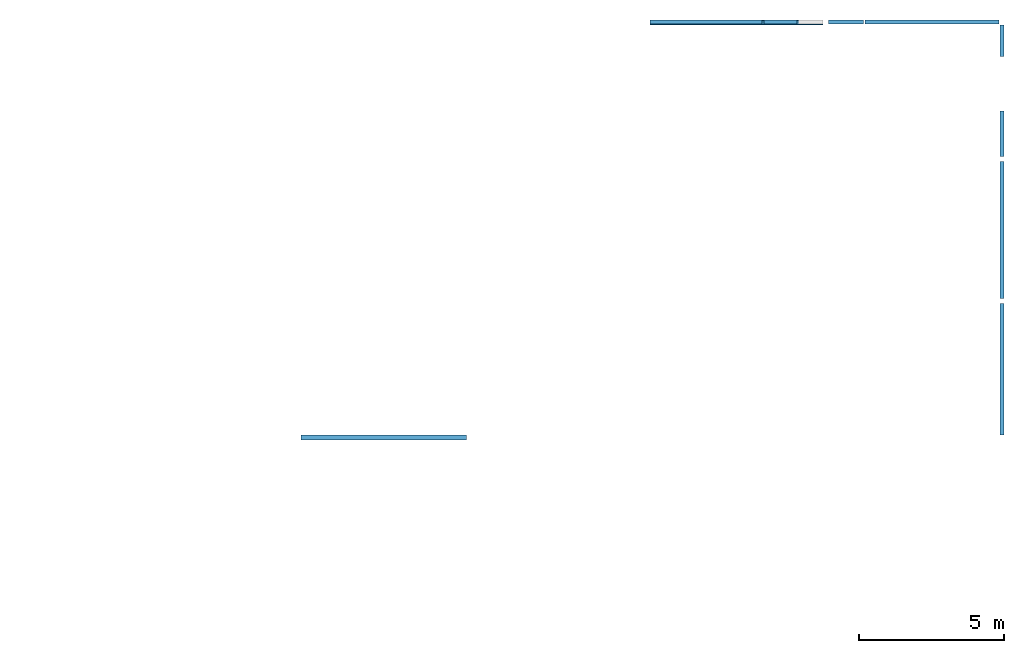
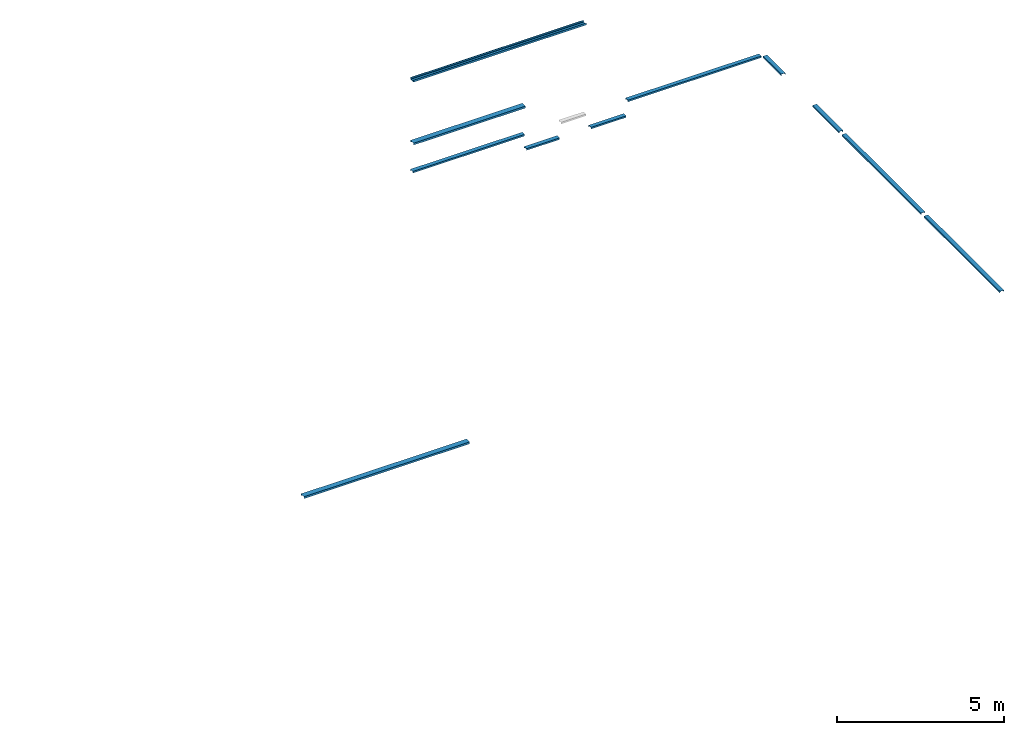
# One storey, part 2 of 3: 12 beams.
"""IFC2X3 building model written with IfcOpenShell, lengths in millimetres."""

from ifc_helpers import new_model, entity, si_unit, converted_unit, derived_unit, direction, frame, frame_2d, origin, place, context, subcontext, project, spatial, polyline, circle_curve, parameter, trimmed, segment, composite_curve, outline, extrude, material, type_object, element, save


model = new_model("IFC2X3")

# Units and contexts
model_context = context("Model", 3, precision=0.01, world=origin(), true_north=direction((6.12303176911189e-17, 1.0)))
body_context = subcontext(model_context, "Body", "Model", "MODEL_VIEW")
ifc_project = project(units=[si_unit("LENGTHUNIT", "METRE", prefix="MILLI"), si_unit("AREAUNIT", "SQUARE_METRE"), si_unit("VOLUMEUNIT", "CUBIC_METRE"), converted_unit("PLANEANGLEUNIT", "DEGREE", entity("IfcRatioMeasure", 0.0174532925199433), si_unit("PLANEANGLEUNIT", "RADIAN"), dimensions=[0, 0, 0, 0, 0, 0, 0]), si_unit("MASSUNIT", "GRAM", prefix="KILO"), derived_unit("MASSDENSITYUNIT", [(si_unit("MASSUNIT", "GRAM", prefix="KILO"), 1), (si_unit("LENGTHUNIT", "METRE"), -3)]), derived_unit("MOMENTOFINERTIAUNIT", [(si_unit("LENGTHUNIT", "METRE"), 4)]), si_unit("TIMEUNIT", "SECOND"), si_unit("FREQUENCYUNIT", "HERTZ"), si_unit("THERMODYNAMICTEMPERATUREUNIT", "DEGREE_CELSIUS"), derived_unit("THERMALTRANSMITTANCEUNIT", [(si_unit("MASSUNIT", "GRAM", prefix="KILO"), 1), (si_unit("THERMODYNAMICTEMPERATUREUNIT", "KELVIN"), -1), (si_unit("TIMEUNIT", "SECOND"), -3)]), derived_unit("VOLUMETRICFLOWRATEUNIT", [(si_unit("LENGTHUNIT", "METRE"), 3), (si_unit("TIMEUNIT", "SECOND"), -1)]), si_unit("ELECTRICCURRENTUNIT", "AMPERE"), si_unit("ELECTRICVOLTAGEUNIT", "VOLT"), si_unit("POWERUNIT", "WATT"), si_unit("FORCEUNIT", "NEWTON", prefix="KILO"), si_unit("ILLUMINANCEUNIT", "LUX"), si_unit("LUMINOUSFLUXUNIT", "LUMEN"), si_unit("LUMINOUSINTENSITYUNIT", "CANDELA"), derived_unit("USERDEFINED", [(si_unit("MASSUNIT", "GRAM", prefix="KILO"), -1), (si_unit("LENGTHUNIT", "METRE"), -2), (si_unit("TIMEUNIT", "SECOND"), 3), (si_unit("LUMINOUSFLUXUNIT", "LUMEN"), 1)]), derived_unit("LINEARVELOCITYUNIT", [(si_unit("LENGTHUNIT", "METRE"), 1), (si_unit("TIMEUNIT", "SECOND"), -1)]), si_unit("PRESSUREUNIT", "PASCAL"), derived_unit("USERDEFINED", [(si_unit("LENGTHUNIT", "METRE"), -2), (si_unit("MASSUNIT", "GRAM", prefix="KILO"), 1), (si_unit("TIMEUNIT", "SECOND"), -2)]), derived_unit("LINEARFORCEUNIT", [(si_unit("MASSUNIT", "GRAM", prefix="KILO"), 1), (si_unit("LENGTHUNIT", "METRE"), 1), (si_unit("TIMEUNIT", "SECOND"), -2), (si_unit("LENGTHUNIT", "METRE"), -1)]), derived_unit("PLANARFORCEUNIT", [(si_unit("MASSUNIT", "GRAM", prefix="KILO"), 1), (si_unit("LENGTHUNIT", "METRE"), 1), (si_unit("TIMEUNIT", "SECOND"), -2), (si_unit("LENGTHUNIT", "METRE"), -2)])], contexts=[model_context])

# Site, building, storey
site_placement = place(None, origin())
site = spatial("IfcSite", under=ifc_project, at=site_placement, Name="Default", CompositionType="ELEMENT")
building_placement = place(site_placement, origin())
building = spatial("IfcBuilding", under=site, at=building_placement, CompositionType="ELEMENT")
storey_placement = place(building_placement, origin())
storey = spatial("IfcBuildingStorey", under=building, at=storey_placement, Name="00 begane grond", CompositionType="ELEMENT", Elevation=-2.70716782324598e-13)

# Beams
ifc_material = material(Name="00_Staal_generiek")
beam_type_1 = type_object("IfcBeamType", Name="BERSnl_28_SF_LIB_balk unp_gen_ISR:balk_gen_UNP140", PredefinedType="BEAM")
beam_1_placement = place(storey_placement, frame((59293.4270571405, 34424.7966282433, 1989.49999999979), z_axis=(0.0, 0.0, 1.0), x_axis=(0.0, -1.0, 0.0)))
element("IfcBeam", 1, at=beam_1_placement, inside=storey, type_object=beam_type_1, material=ifc_material, Name="BERSnl_28_SF_LIB_balk unp_gen_ISR:balk_gen_UNP140", ObjectType="BERSnl_28_SF_LIB_balk unp_gen_ISR:balk_gen_UNP140", context=body_context, shape_type="SweptSolid", body=[
    extrude(outline(composite_curve([segment(polyline([(-33.1001241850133, -70.0), (26.8998758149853, -70.0)]), True, "CONTINUOUS"), segment(polyline([(26.8998758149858, -70.0), (26.8998758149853, -66.7383127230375)]), True, "CONTINUOUS"), segment(trimmed(circle_curve(frame_2d((21.8998758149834, -66.7383127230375), x_axis=(1.0, 0.0)), 5.00000000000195), [parameter(0.0)], [parameter(85.4199999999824)], True, "PARAMETER"), True, "CONTINUOUS"), segment(polyline([(22.2991307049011, -61.754278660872), (-16.8986339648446, -58.614272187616)]), True, "CONTINUOUS"), segment(trimmed(circle_curve(frame_2d((-16.1001241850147, -48.6462040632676), x_axis=(-0.0798509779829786, -0.996806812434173)), 9.99999999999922), [parameter(274.579999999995)], [parameter(0.0)], True, "PARAMETER"), False, "CONTINUOUS"), segment(polyline([(-26.1001241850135, -48.6462040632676), (-26.1001241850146, 48.6462040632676)]), True, "CONTINUOUS"), segment(trimmed(circle_curve(frame_2d((-16.1001241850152, 48.6462040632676), x_axis=(-1.0, 0.0)), 9.99999999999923), [parameter(274.579999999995)], [parameter(0.0)], True, "PARAMETER"), False, "CONTINUOUS"), segment(polyline([(-16.8986339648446, 58.6142721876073), (22.2991307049, 61.7542786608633)]), True, "CONTINUOUS"), segment(trimmed(circle_curve(frame_2d((21.8998758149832, 66.7383127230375), x_axis=(0.0798509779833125, -0.996806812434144)), 5.00000000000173), [parameter(0.0)], [parameter(85.4199999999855)], True, "PARAMETER"), True, "CONTINUOUS"), segment(polyline([(26.8998758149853, 66.7383127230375), (26.8998758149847, 70.0)]), True, "CONTINUOUS"), segment(polyline([(26.8998758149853, 70.0), (-33.1001241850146, 70.0)]), True, "CONTINUOUS"), segment(polyline([(-33.1001241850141, 70.0), (-33.1001241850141, -70.0)]), True, "CONTINUOUS")], self_intersect=False)), frame((-900.5, 70.0, -15.6001241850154), z_axis=(1.0, 0.0, 0.0), x_axis=(0.0, 0.0, -1.0)), (0.0, 0.0, 1.0), 1083.00000000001),
])
beam_2_placement = place(storey_placement, frame((59293.4270571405, 31386.6485141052, 1989.49999999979), z_axis=(0.0, 0.0, 1.0), x_axis=(0.0, -1.0, 0.0)))
element("IfcBeam", 2, at=beam_2_placement, inside=storey, type_object=beam_type_1, material=ifc_material, Name="BERSnl_28_SF_LIB_balk unp_gen_ISR:balk_gen_UNP140", ObjectType="BERSnl_28_SF_LIB_balk unp_gen_ISR:balk_gen_UNP140", context=body_context, shape_type="SweptSolid", body=[
    extrude(outline(composite_curve([segment(polyline([(-33.1001241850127, -70.0), (26.8998758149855, -70.0)]), True, "CONTINUOUS"), segment(polyline([(26.8998758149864, -70.0), (26.8998758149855, -66.7383127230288)]), True, "CONTINUOUS"), segment(trimmed(circle_curve(frame_2d((21.8998758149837, -66.7383127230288), x_axis=(1.0, 0.0)), 5.00000000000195), [parameter(0.0)], [parameter(85.4199999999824)], True, "PARAMETER"), True, "CONTINUOUS"), segment(polyline([(22.2991307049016, -61.7542786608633), (-16.8986339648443, -58.6142721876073)]), True, "CONTINUOUS"), segment(trimmed(circle_curve(frame_2d((-16.1001241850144, -48.6462040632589), x_axis=(-0.0798509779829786, -0.996806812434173)), 9.99999999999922), [parameter(274.579999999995)], [parameter(0.0)], True, "PARAMETER"), False, "CONTINUOUS"), segment(polyline([(-26.100124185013, -48.6462040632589), (-26.1001241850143, 48.6462040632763)]), True, "CONTINUOUS"), segment(trimmed(circle_curve(frame_2d((-16.100124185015, 48.6462040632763), x_axis=(-1.0, 0.0)), 9.99999999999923), [parameter(274.579999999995)], [parameter(0.0)], True, "PARAMETER"), False, "CONTINUOUS"), segment(polyline([(-16.8986339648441, 58.614272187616), (22.2991307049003, 61.754278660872)]), True, "CONTINUOUS"), segment(trimmed(circle_curve(frame_2d((21.8998758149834, 66.7383127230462), x_axis=(0.0798509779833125, -0.996806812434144)), 5.00000000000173), [parameter(0.0)], [parameter(85.4199999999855)], True, "PARAMETER"), True, "CONTINUOUS"), segment(polyline([(26.8998758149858, 66.7383127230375), (26.899875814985, 70.0)]), True, "CONTINUOUS"), segment(polyline([(26.8998758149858, 70.0), (-33.1001241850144, 70.0)]), True, "CONTINUOUS"), segment(polyline([(-33.1001241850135, 70.0), (-33.1001241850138, -70.0)]), True, "CONTINUOUS")], self_intersect=False)), frame((-975.648114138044, 70.0, -15.6001241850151), z_axis=(1.0, 0.0, 0.0), x_axis=(0.0, 0.0, -1.0)), (0.0, 0.0, 1.0), 1576.00000000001),
])
beam_3_placement = place(storey_placement, frame((59293.4270571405, 30005.9447423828, 1989.49999999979), z_axis=(0.0, 0.0, 1.0), x_axis=(0.0, 1.0, 0.0)))
element("IfcBeam", 3, at=beam_3_placement, inside=storey, type_object=beam_type_1, material=ifc_material, Name="BERSnl_28_SF_LIB_balk unp_gen_ISR:balk_gen_UNP140", ObjectType="BERSnl_28_SF_LIB_balk unp_gen_ISR:balk_gen_UNP140", context=body_context, shape_type="SweptSolid", body=[
    extrude(outline(composite_curve([segment(polyline([(-33.1001241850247, -70.0), (26.8998758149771, -70.0)]), True, "CONTINUOUS"), segment(polyline([(26.8998758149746, -70.0), (26.8998758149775, -66.7383127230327)]), True, "CONTINUOUS"), segment(trimmed(circle_curve(frame_2d((21.8998758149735, -66.7383127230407), x_axis=(1.0, 0.0)), 5.00000000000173), [parameter(0.0)], [parameter(85.4199999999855)], True, "PARAMETER"), True, "CONTINUOUS"), segment(polyline([(22.2991307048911, -61.7542786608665), (-16.8986339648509, -58.6142721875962)]), True, "CONTINUOUS"), segment(trimmed(circle_curve(frame_2d((-16.1001241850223, -48.6462040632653), x_axis=(-0.0798509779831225, -0.996806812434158)), 9.99999999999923), [parameter(274.579999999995)], [parameter(0.0)], True, "PARAMETER"), False, "CONTINUOUS"), segment(polyline([(-26.1001241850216, -48.6462040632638), (-26.1001241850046, 48.64620406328)]), True, "CONTINUOUS"), segment(trimmed(circle_curve(frame_2d((-16.1001241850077, 48.6462040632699), x_axis=(-1.0, 0.0)), 9.99999999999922), [parameter(274.579999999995)], [parameter(0.0)], True, "PARAMETER"), False, "CONTINUOUS"), segment(polyline([(-16.8986339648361, 58.6142721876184), (22.2991307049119, 61.7542786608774)]), True, "CONTINUOUS"), segment(trimmed(circle_curve(frame_2d((21.8998758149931, 66.7383127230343), x_axis=(0.0798509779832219, -0.99680681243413)), 5.00000000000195), [parameter(0.0)], [parameter(85.4199999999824)], True, "PARAMETER"), True, "CONTINUOUS"), segment(polyline([(26.8998758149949, 66.7383127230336), (26.8998758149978, 70.0)]), True, "CONTINUOUS"), segment(polyline([(26.8998758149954, 70.0), (-33.1001241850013, 70.0)]), True, "CONTINUOUS"), segment(polyline([(-33.100124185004, 70.0), (-33.1001241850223, -70.0)]), True, "CONTINUOUS")], self_intersect=False)), frame((-4119.64811413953, -70.0, -15.6001241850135), z_axis=(1.0, 0.0, 0.0), x_axis=(0.0, 0.0, -1.0)), (0.0, 0.0, 1.0), 4720.00000000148),
])
beam_4_placement = place(storey_placement, frame((59293.4270571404, 21586.6485141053, 1989.49999999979), z_axis=(0.0, 0.0, 1.0), x_axis=(0.0, -1.0, 0.0)))
element("IfcBeam", 4, at=beam_4_placement, inside=storey, type_object=beam_type_1, material=ifc_material, Name="BERSnl_28_SF_LIB_balk unp_gen_ISR:balk_gen_UNP140", ObjectType="BERSnl_28_SF_LIB_balk unp_gen_ISR:balk_gen_UNP140", context=body_context, shape_type="SweptSolid", body=[
    extrude(outline(composite_curve([segment(polyline([(-33.1001241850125, -70.0), (26.8998758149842, -70.0)]), True, "CONTINUOUS"), segment(polyline([(26.8998758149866, -70.0), (26.8998758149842, -66.7383127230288)]), True, "CONTINUOUS"), segment(trimmed(circle_curve(frame_2d((21.8998758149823, -66.7383127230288), x_axis=(1.0, 0.0)), 5.00000000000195), [parameter(0.0)], [parameter(85.4199999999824)], True, "PARAMETER"), True, "CONTINUOUS"), segment(polyline([(22.2991307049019, -61.7542786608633), (-16.8986339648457, -58.6142721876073)]), True, "CONTINUOUS"), segment(trimmed(circle_curve(frame_2d((-16.1001241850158, -48.6462040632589), x_axis=(-0.0798509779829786, -0.996806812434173)), 9.99999999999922), [parameter(274.579999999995)], [parameter(0.0)], True, "PARAMETER"), False, "CONTINUOUS"), segment(polyline([(-26.1001241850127, -48.6462040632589), (-26.1001241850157, 48.6462040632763)]), True, "CONTINUOUS"), segment(trimmed(circle_curve(frame_2d((-16.1001241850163, 48.6462040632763), x_axis=(-1.0, 0.0)), 9.99999999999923), [parameter(274.579999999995)], [parameter(0.0)], True, "PARAMETER"), False, "CONTINUOUS"), segment(polyline([(-16.8986339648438, 58.614272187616), (22.2991307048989, 61.754278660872)]), True, "CONTINUOUS"), segment(trimmed(circle_curve(frame_2d((21.8998758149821, 66.7383127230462), x_axis=(0.0798509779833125, -0.996806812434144)), 5.00000000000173), [parameter(0.0)], [parameter(85.4199999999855)], True, "PARAMETER"), True, "CONTINUOUS"), segment(polyline([(26.8998758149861, 66.7383127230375), (26.8998758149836, 70.0)]), True, "CONTINUOUS"), segment(polyline([(26.8998758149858, 70.0), (-33.1001241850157, 70.0)]), True, "CONTINUOUS"), segment(polyline([(-33.1001241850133, 70.0), (-33.1001241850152, -70.0)]), True, "CONTINUOUS")], self_intersect=False)), frame((-4119.64811413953, 70.0, -15.6001241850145), z_axis=(1.0, 0.0, 0.0), x_axis=(0.0, 0.0, -1.0)), (0.0, 0.0, 1.0), 4539.00000000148),
])
beam_5_placement = place(storey_placement, frame((57643.6770571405, 35356.2966282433, 1989.4999999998)))
element("IfcBeam", 5, at=beam_5_placement, inside=storey, type_object=beam_type_1, material=ifc_material, Name="BERSnl_28_SF_LIB_balk unp_gen_ISR:balk_gen_UNP140", ObjectType="BERSnl_28_SF_LIB_balk unp_gen_ISR:balk_gen_UNP140", context=body_context, shape_type="SweptSolid", body=[
    extrude(outline(composite_curve([segment(polyline([(-33.1001241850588, -70.0), (26.8998758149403, -70.0)]), True, "CONTINUOUS"), segment(polyline([(26.8998758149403, -70.0), (26.8998758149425, -66.7383127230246)]), True, "CONTINUOUS"), segment(trimmed(circle_curve(frame_2d((21.8998758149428, -66.7383127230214), x_axis=(1.0, 0.0)), 4.99999999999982), [parameter(0.0)], [parameter(85.4200000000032)], True, "PARAMETER"), True, "CONTINUOUS"), segment(polyline([(22.299130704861, -61.7542786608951), (-16.8986339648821, -58.6142721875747)]), True, "CONTINUOUS"), segment(trimmed(circle_curve(frame_2d((-16.1001241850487, -48.6462040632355), x_axis=(-0.079850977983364, -0.99680681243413)), 9.99999999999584), [parameter(274.579999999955)], [parameter(0.0)], True, "PARAMETER"), False, "CONTINUOUS"), segment(polyline([(-26.1001241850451, -48.6462040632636), (-26.1001241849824, 48.6462040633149)]), True, "CONTINUOUS"), segment(trimmed(circle_curve(frame_2d((-16.1001241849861, 48.6462040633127), x_axis=(-1.0, 0.0)), 9.99999999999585), [parameter(274.579999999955)], [parameter(0.0)], True, "PARAMETER"), False, "CONTINUOUS"), segment(polyline([(-16.8986339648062, 58.6142721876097), (22.2991307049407, 61.7542786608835)]), True, "CONTINUOUS"), segment(trimmed(circle_curve(frame_2d((21.8998758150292, 66.7383127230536), x_axis=(0.0798509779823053, -0.996806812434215)), 4.9999999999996), [parameter(0.0)], [parameter(85.4200000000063)], True, "PARAMETER"), True, "CONTINUOUS"), segment(polyline([(26.8998758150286, 66.738312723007), (26.8998758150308, 70.0)]), True, "CONTINUOUS"), segment(polyline([(26.8998758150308, 70.0), (-33.1001241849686, 70.0)]), True, "CONTINUOUS"), segment(polyline([(-33.1001241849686, 70.0), (-33.100124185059, -70.0)]), True, "CONTINUOUS")], self_intersect=False)), frame((-3000.24999999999, 70.0, -15.6001241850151), z_axis=(1.0, 0.0, 0.0), x_axis=(0.0, 0.0, -1.0)), (0.0, 0.0, 1.0), 4610.00000000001),
])
beam_6_placement = place(storey_placement, frame((50363.6770571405, 35356.2966282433, 1989.49999999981)))
element("IfcBeam", 6, at=beam_6_placement, inside=storey, type_object=beam_type_1, material=ifc_material, Name="BERSnl_28_SF_LIB_balk unp_gen_ISR:balk_gen_UNP140", ObjectType="BERSnl_28_SF_LIB_balk unp_gen_ISR:balk_gen_UNP140", context=body_context, shape_type="SweptSolid", body=[
    extrude(outline(composite_curve([segment(polyline([(-33.1001241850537, -70.0), (26.8998758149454, -70.0)]), True, "CONTINUOUS"), segment(polyline([(26.8998758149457, -70.0), (26.8998758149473, -66.7383127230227)]), True, "CONTINUOUS"), segment(trimmed(circle_curve(frame_2d((21.8998758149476, -66.7383127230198), x_axis=(1.0, 0.0)), 4.99999999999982), [parameter(0.0)], [parameter(85.4200000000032)], True, "PARAMETER"), True, "CONTINUOUS"), segment(polyline([(22.2991307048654, -61.7542786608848), (-16.8986339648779, -58.6142721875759)]), True, "CONTINUOUS"), segment(trimmed(circle_curve(frame_2d((-16.1001241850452, -48.6462040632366), x_axis=(-0.079850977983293, -0.996806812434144)), 9.99999999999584), [parameter(274.579999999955)], [parameter(0.0)], True, "PARAMETER"), False, "CONTINUOUS"), segment(polyline([(-26.1001241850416, -48.6462040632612), (-26.100124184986, 48.646204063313)]), True, "CONTINUOUS"), segment(trimmed(circle_curve(frame_2d((-16.1001241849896, 48.6462040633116), x_axis=(-1.0, 0.0)), 9.99999999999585), [parameter(274.579999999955)], [parameter(0.0)], True, "PARAMETER"), False, "CONTINUOUS"), segment(polyline([(-16.8986339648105, 58.6142721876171), (22.2991307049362, 61.7542786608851)]), True, "CONTINUOUS"), segment(trimmed(circle_curve(frame_2d((21.8998758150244, 66.7383127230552), x_axis=(0.0798509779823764, -0.996806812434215)), 4.9999999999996), [parameter(0.0)], [parameter(85.4200000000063)], True, "PARAMETER"), True, "CONTINUOUS"), segment(polyline([(26.8998758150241, 66.7383127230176), (26.8998758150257, 70.0)]), True, "CONTINUOUS"), segment(polyline([(26.8998758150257, 70.0), (-33.1001241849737, 70.0)]), True, "CONTINUOUS"), segment(polyline([(-33.1001241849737, 70.0), (-33.100124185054, -70.0)]), True, "CONTINUOUS")], self_intersect=False)), frame((-3140.24999999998, 70.0, -15.6001241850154), z_axis=(1.0, 0.0, 0.0), x_axis=(0.0, 0.0, -1.0)), (0.0, 0.0, 1.0), 3859.83415010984),
])
beam_7_placement = place(storey_placement, frame((56428.6770571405, 35356.2966282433, 1442.49999999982)))
element("IfcBeam", 7, at=beam_7_placement, inside=storey, type_object=beam_type_1, material=ifc_material, Name="BERSnl_28_SF_LIB_balk unp_gen_ISR:balk_gen_UNP140", ObjectType="BERSnl_28_SF_LIB_balk unp_gen_ISR:balk_gen_UNP140", context=body_context, shape_type="SweptSolid", body=[
    extrude(outline(composite_curve([segment(polyline([(-33.1001241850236, -70.0), (26.8998758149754, -70.0)]), True, "CONTINUOUS"), segment(polyline([(26.8998758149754, -70.0), (26.8998758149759, -66.7383127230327)]), True, "CONTINUOUS"), segment(trimmed(circle_curve(frame_2d((21.8998758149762, -66.738312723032), x_axis=(1.0, 0.0)), 4.99999999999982), [parameter(0.0)], [parameter(85.4200000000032)], True, "PARAMETER"), True, "CONTINUOUS"), segment(polyline([(22.2991307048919, -61.7542786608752), (-16.8986339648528, -58.6142721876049)]), True, "CONTINUOUS"), segment(trimmed(circle_curve(frame_2d((-16.1001241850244, -48.6462040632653), x_axis=(-0.0798509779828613, -0.996806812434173)), 9.99999999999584), [parameter(274.579999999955)], [parameter(0.0)], True, "PARAMETER"), False, "CONTINUOUS"), segment(polyline([(-26.1001241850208, -48.6462040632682), (-26.1001241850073, 48.64620406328)]), True, "CONTINUOUS"), segment(trimmed(circle_curve(frame_2d((-16.1001241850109, 48.6462040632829), x_axis=(-1.0, 0.0)), 9.99999999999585), [parameter(274.579999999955)], [parameter(0.0)], True, "PARAMETER"), False, "CONTINUOUS"), segment(polyline([(-16.8986339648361, 58.6142721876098), (22.2991307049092, 61.7542786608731)]), True, "CONTINUOUS"), segment(trimmed(circle_curve(frame_2d((21.8998758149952, 66.738312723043), x_axis=(0.079850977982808, -0.996806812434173)), 4.9999999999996), [parameter(0.0)], [parameter(85.4200000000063)], True, "PARAMETER"), True, "CONTINUOUS"), segment(polyline([(26.8998758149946, 66.7383127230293), (26.8998758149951, 70.0)]), True, "CONTINUOUS"), segment(polyline([(26.8998758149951, 70.0), (-33.1001241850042, 70.0)]), True, "CONTINUOUS"), segment(polyline([(-33.1001241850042, 70.0), (-33.1001241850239, -70.0)]), True, "CONTINUOUS")], self_intersect=False)), frame((-3055.24999999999, 70.0, -15.6001241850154), z_axis=(1.0, 0.0, 0.0), x_axis=(0.0, 0.0, -1.0)), (0.0, 0.0, 1.0), 1210.0),
])
beam_8_placement = place(storey_placement, frame((54138.6770571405, 35356.2966282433, 1442.49999999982)))
element("IfcBeam", 8, at=beam_8_placement, inside=storey, type_object=beam_type_1, material=ifc_material, Name="BERSnl_28_SF_LIB_balk unp_gen_ISR:balk_gen_UNP140", ObjectType="BERSnl_28_SF_LIB_balk unp_gen_ISR:balk_gen_UNP140", context=body_context, shape_type="SweptSolid", body=[
    extrude(outline(composite_curve([segment(polyline([(-33.1001241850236, -70.0), (26.8998758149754, -70.0)]), True, "CONTINUOUS"), segment(polyline([(26.8998758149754, -70.0), (26.8998758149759, -66.7383127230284)]), True, "CONTINUOUS"), segment(trimmed(circle_curve(frame_2d((21.8998758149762, -66.7383127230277), x_axis=(1.0, 0.0)), 4.99999999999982), [parameter(0.0)], [parameter(85.4200000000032)], True, "PARAMETER"), True, "CONTINUOUS"), segment(polyline([(22.2991307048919, -61.7542786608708), (-16.8986339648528, -58.6142721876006)]), True, "CONTINUOUS"), segment(trimmed(circle_curve(frame_2d((-16.1001241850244, -48.6462040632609), x_axis=(-0.0798509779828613, -0.996806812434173)), 9.99999999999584), [parameter(274.579999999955)], [parameter(0.0)], True, "PARAMETER"), False, "CONTINUOUS"), segment(polyline([(-26.1001241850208, -48.6462040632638), (-26.1001241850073, 48.6462040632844)]), True, "CONTINUOUS"), segment(trimmed(circle_curve(frame_2d((-16.1001241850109, 48.6462040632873), x_axis=(-1.0, 0.0)), 9.99999999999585), [parameter(274.579999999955)], [parameter(0.0)], True, "PARAMETER"), False, "CONTINUOUS"), segment(polyline([(-16.8986339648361, 58.6142721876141), (22.2991307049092, 61.7542786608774)]), True, "CONTINUOUS"), segment(trimmed(circle_curve(frame_2d((21.8998758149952, 66.7383127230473), x_axis=(0.079850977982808, -0.996806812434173)), 4.9999999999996), [parameter(0.0)], [parameter(85.4200000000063)], True, "PARAMETER"), True, "CONTINUOUS"), segment(polyline([(26.8998758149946, 66.7383127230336), (26.8998758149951, 70.0)]), True, "CONTINUOUS"), segment(polyline([(26.8998758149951, 70.0), (-33.1001241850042, 70.0)]), True, "CONTINUOUS"), segment(polyline([(-33.1001241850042, 70.0), (-33.1001241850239, -70.0)]), True, "CONTINUOUS")], self_intersect=False)), frame((-2995.41584989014, 70.0, -15.6001241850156), z_axis=(1.0, 0.0, 0.0), x_axis=(0.0, 0.0, -1.0)), (0.0, 0.0, 1.0), 1140.16584989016),
])
beam_9_placement = place(storey_placement, frame((56368.8429070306, 35356.2966282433, 1442.49999999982)))
element("IfcBeam", 9, at=beam_9_placement, inside=storey, type_object=beam_type_1, material=ifc_material, Name="BERSnl_28_SF_LIB_balk unp_gen_ISR:balk_gen_UNP140", ObjectType="BERSnl_28_SF_LIB_balk unp_gen_ISR:balk_gen_UNP140", context=body_context, shape_type="SweptSolid", body=[
    extrude(outline(composite_curve([segment(polyline([(-33.1001241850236, -70.0), (26.8998758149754, -70.0)]), True, "CONTINUOUS"), segment(polyline([(26.8998758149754, -70.0), (26.8998758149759, -66.7383127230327)]), True, "CONTINUOUS"), segment(trimmed(circle_curve(frame_2d((21.8998758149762, -66.738312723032), x_axis=(1.0, 0.0)), 4.99999999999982), [parameter(0.0)], [parameter(85.4200000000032)], True, "PARAMETER"), True, "CONTINUOUS"), segment(polyline([(22.2991307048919, -61.7542786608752), (-16.8986339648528, -58.6142721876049)]), True, "CONTINUOUS"), segment(trimmed(circle_curve(frame_2d((-16.1001241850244, -48.6462040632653), x_axis=(-0.0798509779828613, -0.996806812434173)), 9.99999999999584), [parameter(274.579999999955)], [parameter(0.0)], True, "PARAMETER"), False, "CONTINUOUS"), segment(polyline([(-26.1001241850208, -48.6462040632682), (-26.1001241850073, 48.64620406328)]), True, "CONTINUOUS"), segment(trimmed(circle_curve(frame_2d((-16.1001241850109, 48.6462040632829), x_axis=(-1.0, 0.0)), 9.99999999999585), [parameter(274.579999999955)], [parameter(0.0)], True, "PARAMETER"), False, "CONTINUOUS"), segment(polyline([(-16.8986339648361, 58.6142721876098), (22.2991307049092, 61.7542786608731)]), True, "CONTINUOUS"), segment(trimmed(circle_curve(frame_2d((21.8998758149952, 66.738312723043), x_axis=(0.079850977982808, -0.996806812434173)), 4.9999999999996), [parameter(0.0)], [parameter(85.4200000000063)], True, "PARAMETER"), True, "CONTINUOUS"), segment(polyline([(26.8998758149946, 66.7383127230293), (26.8998758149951, 70.0)]), True, "CONTINUOUS"), segment(polyline([(26.8998758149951, 70.0), (-33.1001241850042, 70.0)]), True, "CONTINUOUS"), segment(polyline([(-33.1001241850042, 70.0), (-33.1001241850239, -70.0)]), True, "CONTINUOUS")], self_intersect=False)), frame((-2995.41584989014, 70.0, -15.6001241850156), z_axis=(1.0, 0.0, 0.0), x_axis=(0.0, 0.0, -1.0)), (0.0, 0.0, 1.0), 1210.00000000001),
])
beam_type_2 = type_object("IfcBeamType", Name="BERSnl_28_SF_LIB_balk unp_gen_ISR:balk_gen_UNP180", PredefinedType="BEAM")
beam_10_placement = place(storey_placement, frame((52613.6770571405, 35496.2966282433, 5307.49999999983)))
element("IfcBeam", 10, at=beam_10_placement, inside=storey, type_object=beam_type_2, material=ifc_material, Name="BERSnl_28_SF_LIB_balk unp_gen_ISR:balk_gen_UNP180", ObjectType="BERSnl_28_SF_LIB_balk unp_gen_ISR:balk_gen_UNP180", context=body_context, shape_type="SweptSolid", body=[
    extrude(outline(composite_curve([segment(polyline([(-31.4898633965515, -90.0), (38.5101366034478, -90.0)]), True, "CONTINUOUS"), segment(polyline([(38.5101366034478, -90.0), (38.5101366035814, 90.0)]), True, "CONTINUOUS"), segment(polyline([(38.5101366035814, 90.0), (-31.4898633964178, 90.0)]), True, "CONTINUOUS"), segment(polyline([(-31.4898633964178, 90.0), (-31.4898633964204, 86.5603415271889)]), True, "CONTINUOUS"), segment(trimmed(circle_curve(frame_2d((-25.9898633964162, 86.5603415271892), x_axis=(-1.0, 0.0)), 5.50000000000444), [parameter(0.0)], [parameter(85.4199999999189)], True, "PARAMETER"), True, "CONTINUOUS"), segment(polyline([(-26.4290437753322, 81.0779040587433), (20.3884973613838, 77.327501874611)]), True, "CONTINUOUS"), segment(trimmed(circle_curve(frame_2d((19.5101366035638, 66.3626269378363), x_axis=(0.0798509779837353, 0.996806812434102)), 10.9999999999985), [parameter(274.579999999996)], [parameter(0.0)], True, "PARAMETER"), False, "CONTINUOUS"), segment(polyline([(30.5101366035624, 66.3626269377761), (30.510136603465, -66.3626269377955)]), True, "CONTINUOUS"), segment(trimmed(circle_curve(frame_2d((19.5101366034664, -66.3626269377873), x_axis=(1.0, 0.0)), 10.9999999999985), [parameter(274.579999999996)], [parameter(0.0)], True, "PARAMETER"), False, "CONTINUOUS"), segment(polyline([(20.3884973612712, -77.3275018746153), (-26.4290437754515, -81.0779040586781)]), True, "CONTINUOUS"), segment(trimmed(circle_curve(frame_2d((-25.9898633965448, -86.5603415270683), x_axis=(-0.0798509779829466, 0.996806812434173)), 5.50000000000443), [parameter(0.0)], [parameter(85.4199999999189)], True, "PARAMETER"), True, "CONTINUOUS"), segment(polyline([(-31.4898633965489, -86.5603415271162), (-31.4898633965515, -90.0)]), True, "CONTINUOUS")], self_intersect=False)), frame((-5390.24999999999, -90.0, 19.3101366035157), z_axis=(1.0, 0.0, 0.0), x_axis=(0.0, 0.0, -1.0)), (0.0, 0.0, 1.0), 5970.0),
])
beam_11_placement = place(storey_placement, frame((38665.328650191, 21176.2966282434, 3042.49999999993)))
element("IfcBeam", 11, at=beam_11_placement, inside=storey, type_object=beam_type_2, material=ifc_material, Name="BERSnl_28_SF_LIB_balk unp_gen_ISR:balk_gen_UNP180", ObjectType="BERSnl_28_SF_LIB_balk unp_gen_ISR:balk_gen_UNP180", context=body_context, shape_type="SweptSolid", body=[
    extrude(outline(composite_curve([segment(polyline([(-38.5101366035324, -90.0), (31.4898633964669, -90.0)]), True, "CONTINUOUS"), segment(polyline([(31.4898633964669, -90.0), (31.4898633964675, -86.5603415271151)]), True, "CONTINUOUS"), segment(trimmed(circle_curve(frame_2d((25.9898633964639, -86.5603415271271), x_axis=(1.0, 0.0)), 5.50000000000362), [parameter(0.0)], [parameter(85.4199999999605)], True, "PARAMETER"), True, "CONTINUOUS"), segment(polyline([(26.4290437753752, -81.0779040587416), (-20.3884973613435, -77.3275018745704)]), True, "CONTINUOUS"), segment(trimmed(circle_curve(frame_2d((-19.510136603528, -66.3626269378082), x_axis=(-0.0798509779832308, -0.996806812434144)), 11.0000000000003), [parameter(274.579999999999)], [parameter(0.0)], True, "PARAMETER"), False, "CONTINUOUS"), segment(polyline([(-30.5101366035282, -66.3626269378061), (-30.5101366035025, 66.3626269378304)]), True, "CONTINUOUS"), segment(trimmed(circle_curve(frame_2d((-19.5101366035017, 66.3626269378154), x_axis=(-1.0, 0.0)), 11.0000000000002), [parameter(274.579999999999)], [parameter(0.0)], True, "PARAMETER"), False, "CONTINUOUS"), segment(polyline([(-20.3884973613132, 77.327501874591), (26.4290437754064, 81.0779040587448)]), True, "CONTINUOUS"), segment(trimmed(circle_curve(frame_2d((25.9898633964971, 86.5603415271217), x_axis=(0.0798509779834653, -0.99680681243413)), 5.5000000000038), [parameter(0.0)], [parameter(85.4199999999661)], True, "PARAMETER"), True, "CONTINUOUS"), segment(polyline([(31.4898633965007, 86.5603415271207), (31.4898633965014, 90.0)]), True, "CONTINUOUS"), segment(polyline([(31.4898633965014, 90.0), (-38.5101366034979, 90.0)]), True, "CONTINUOUS"), segment(polyline([(-38.5101366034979, 90.0), (-38.5101366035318, -90.0)]), True, "CONTINUOUS")], self_intersect=False)), frame((-3485.90159305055, -90.0, -19.3101366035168), z_axis=(1.0, 0.0, 0.0), x_axis=(0.0, 0.0, -1.0)), (0.0, 0.0, 1.0), 5713.99999999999),
])
beam_12_placement = place(storey_placement, frame((50363.6770571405, 35316.2966282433, 3042.49999999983)))
element("IfcBeam", 12, at=beam_12_placement, inside=storey, type_object=beam_type_2, material=ifc_material, Name="BERSnl_28_SF_LIB_balk unp_gen_ISR:balk_gen_UNP180", ObjectType="BERSnl_28_SF_LIB_balk unp_gen_ISR:balk_gen_UNP180", context=body_context, shape_type="SweptSolid", body=[
    extrude(outline(composite_curve([segment(polyline([(-38.5101366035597, -90.0), (31.4898633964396, -90.0)]), True, "CONTINUOUS"), segment(polyline([(31.4898633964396, -90.0), (31.4898633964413, -86.5603415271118)]), True, "CONTINUOUS"), segment(trimmed(circle_curve(frame_2d((25.9898633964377, -86.5603415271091), x_axis=(1.0, 0.0)), 5.5000000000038), [parameter(0.0)], [parameter(85.4199999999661)], True, "PARAMETER"), True, "CONTINUOUS"), segment(polyline([(26.4290437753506, -81.0779040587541), (-20.3884973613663, -77.3275018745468)]), True, "CONTINUOUS"), segment(trimmed(circle_curve(frame_2d((-19.5101366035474, -66.3626269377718), x_axis=(-0.0798509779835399, -0.99680681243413)), 11.0000000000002), [parameter(274.579999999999)], [parameter(0.0)], True, "PARAMETER"), False, "CONTINUOUS"), segment(polyline([(-30.5101366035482, -66.362626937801), (-30.5101366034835, 66.3626269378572)]), True, "CONTINUOUS"), segment(trimmed(circle_curve(frame_2d((-19.5101366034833, 66.3626269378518), x_axis=(-1.0, 0.0)), 11.0000000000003), [parameter(274.579999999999)], [parameter(0.0)], True, "PARAMETER"), False, "CONTINUOUS"), segment(polyline([(-20.3884973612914, 77.327501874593), (26.4290437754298, 81.0779040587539)]), True, "CONTINUOUS"), segment(trimmed(circle_curve(frame_2d((25.9898633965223, 86.5603415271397), x_axis=(0.0798509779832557, -0.996806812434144)), 5.50000000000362), [parameter(0.0)], [parameter(85.4199999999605)], True, "PARAMETER"), True, "CONTINUOUS"), segment(polyline([(31.4898633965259, 86.5603415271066), (31.4898633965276, 90.0)]), True, "CONTINUOUS"), segment(polyline([(31.4898633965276, 90.0), (-38.5101366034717, 90.0)]), True, "CONTINUOUS"), segment(polyline([(-38.5101366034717, 90.0), (-38.5101366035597, -90.0)]), True, "CONTINUOUS")], self_intersect=False)), frame((-3140.24999999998, 90.0, -19.3101366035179), z_axis=(1.0, 0.0, 0.0), x_axis=(0.0, 0.0, -1.0)), (0.0, 0.0, 1.0), 3859.83415010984),
])

save(model, "model.ifc")
